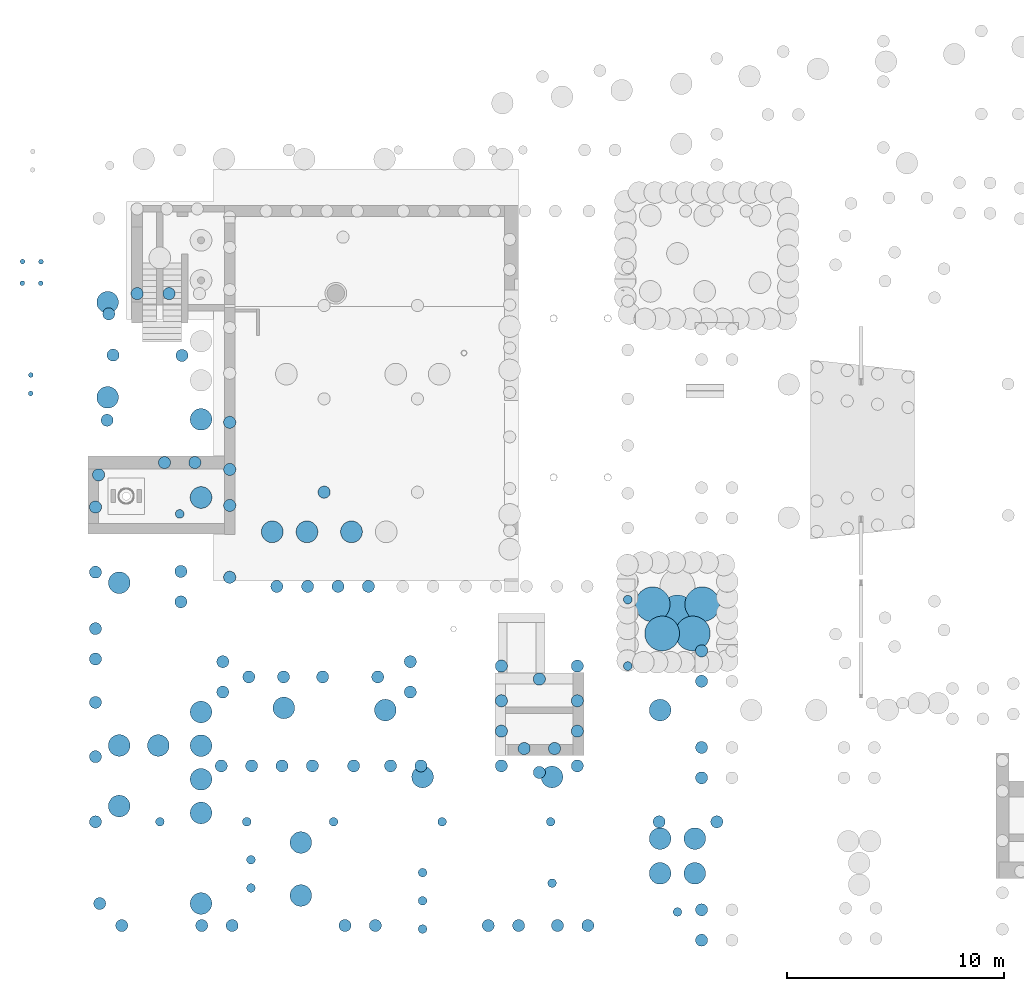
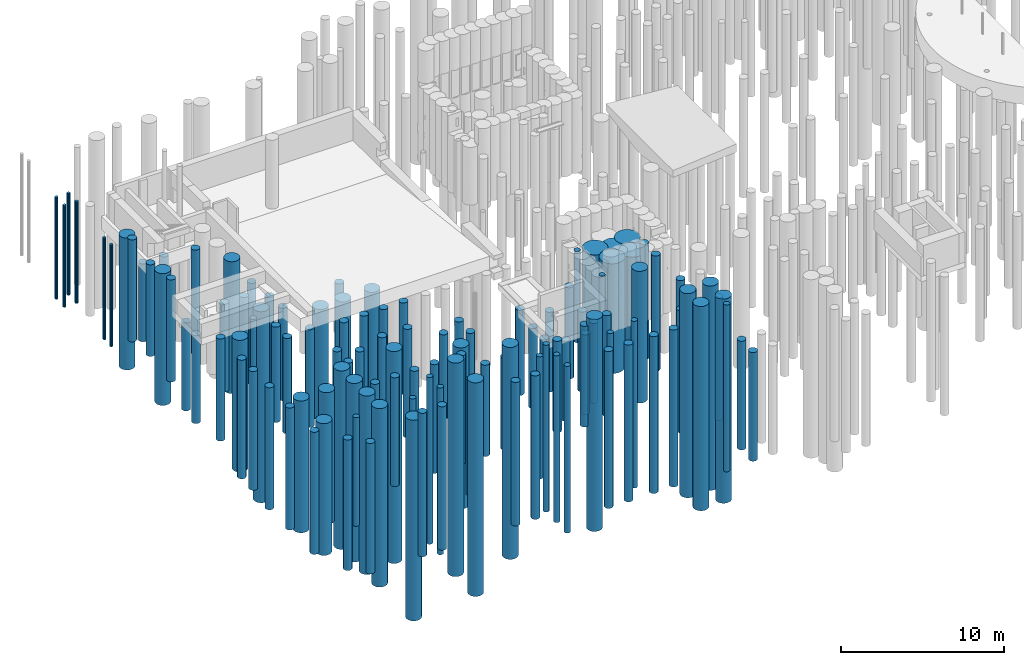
# One storey, part 1 of 104: 125 piles.
"""IFC2X3 building model written with IfcOpenShell, lengths in millimetres."""

from ifc_helpers import new_model, entity, si_unit, converted_unit, derived_unit, direction, frame, frame_2d, origin, place, context, subcontext, project, spatial, circle, extrude, source, transform, mapped, material, element, save


model = new_model("IFC2X3")

# Units and contexts
model_context = context("Model", 3, precision=0.01, world=origin(), true_north=direction((6.12303176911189e-17, 1.0)))
body_context = subcontext(model_context, "Body", "Model", "MODEL_VIEW")
ifc_project = project(units=[si_unit("LENGTHUNIT", "METRE", prefix="MILLI"), si_unit("AREAUNIT", "SQUARE_METRE", prefix="MILLI"), si_unit("VOLUMEUNIT", "CUBIC_METRE"), converted_unit("PLANEANGLEUNIT", "DEGREE", entity("IfcRatioMeasure", 0.0174532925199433), si_unit("PLANEANGLEUNIT", "RADIAN"), dimensions=[0, 0, 0, 0, 0, 0, 0]), si_unit("MASSUNIT", "GRAM", prefix="KILO"), derived_unit("MASSDENSITYUNIT", [(si_unit("MASSUNIT", "GRAM", prefix="KILO"), 1), (si_unit("LENGTHUNIT", "METRE"), -3)]), derived_unit("MOMENTOFINERTIAUNIT", [(si_unit("LENGTHUNIT", "METRE"), 4)]), si_unit("TIMEUNIT", "SECOND"), si_unit("FREQUENCYUNIT", "HERTZ"), si_unit("THERMODYNAMICTEMPERATUREUNIT", "DEGREE_CELSIUS"), derived_unit("THERMALTRANSMITTANCEUNIT", [(si_unit("MASSUNIT", "GRAM", prefix="KILO"), 1), (si_unit("THERMODYNAMICTEMPERATUREUNIT", "KELVIN"), -1), (si_unit("TIMEUNIT", "SECOND"), -3)]), derived_unit("VOLUMETRICFLOWRATEUNIT", [(si_unit("LENGTHUNIT", "METRE"), 3), (si_unit("TIMEUNIT", "SECOND"), -1)]), si_unit("ELECTRICCURRENTUNIT", "AMPERE"), si_unit("ELECTRICVOLTAGEUNIT", "VOLT"), si_unit("POWERUNIT", "WATT"), si_unit("FORCEUNIT", "NEWTON", prefix="KILO"), si_unit("ILLUMINANCEUNIT", "LUX"), si_unit("LUMINOUSFLUXUNIT", "LUMEN"), si_unit("LUMINOUSINTENSITYUNIT", "CANDELA"), derived_unit("USERDEFINED", [(si_unit("MASSUNIT", "GRAM", prefix="KILO"), -1), (si_unit("LENGTHUNIT", "METRE"), -2), (si_unit("TIMEUNIT", "SECOND"), 3), (si_unit("LUMINOUSFLUXUNIT", "LUMEN"), 1)]), derived_unit("LINEARVELOCITYUNIT", [(si_unit("LENGTHUNIT", "METRE"), 1), (si_unit("TIMEUNIT", "SECOND"), -1)]), si_unit("PRESSUREUNIT", "PASCAL"), derived_unit("USERDEFINED", [(si_unit("LENGTHUNIT", "METRE"), -2), (si_unit("MASSUNIT", "GRAM", prefix="KILO"), 1), (si_unit("TIMEUNIT", "SECOND"), -2)]), derived_unit("LINEARFORCEUNIT", [(si_unit("MASSUNIT", "GRAM", prefix="KILO"), 1), (si_unit("LENGTHUNIT", "METRE"), 1), (si_unit("TIMEUNIT", "SECOND"), -2), (si_unit("LENGTHUNIT", "METRE"), -1)]), derived_unit("PLANARFORCEUNIT", [(si_unit("MASSUNIT", "GRAM", prefix="KILO"), 1), (si_unit("LENGTHUNIT", "METRE"), 1), (si_unit("TIMEUNIT", "SECOND"), -2), (si_unit("LENGTHUNIT", "METRE"), -2)])], contexts=[model_context])

# Site, building, storey
site_placement = place(None, origin())
site = spatial("IfcSite", under=ifc_project, at=site_placement, Name="Theater aan de Parade", CompositionType="ELEMENT")
building_placement = place(site_placement, origin())
building = spatial("IfcBuilding", under=site, at=building_placement, Name="Theater aan de Parade", CompositionType="ELEMENT")
storey_placement = place(building_placement, frame((0.0, 0.0, -5520.0)))
storey = spatial("IfcBuildingStorey", under=building, at=storey_placement, Name="-2 kelder", CompositionType="ELEMENT", Elevation=-5520.0)

# Piles
ifc_material_1 = material(Name="<Unnamed>")
shared_shape_1 = source(origin(), body_context, "Body", "SweptSolid", [
    extrude(circle(Radius=280.0, at=frame_2d((-1.47690177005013e-29, -4.61316659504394e-13), x_axis=(1.0, 0.0))), frame((0.0, 0.0, -12360.0)), (0.0, 0.0, 1.0), 5819.99999999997),
])
for number, where in (
    (1, (12260.0, 39650.0, 5520.0)),
    (2, (13730.0, 39650.0, 5520.0)),
):
    element("IfcPile", number, at=place(storey_placement, frame(where)), inside=storey, material=ifc_material_1, Name="17_PBT_SFO_paal_rond:Ø560 (betonpaal)_bestaand", ObjectType="17_PBT_SFO_paal_rond:Ø560 (betonpaal)_bestaand", PredefinedType="NOTDEFINED", context=body_context, shape_type="MappedRepresentation", body=[
        mapped(shared_shape_1, transform((0.0, 0.0, 0.0), scale=1.0)),
    ])
shared_shape_2 = source(origin(), body_context, "Body", "SweptSolid", [
    extrude(circle(Radius=280.0, at=frame_2d((1.69197988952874e-14, -4.61316659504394e-13), x_axis=(1.0, 0.0))), frame((0.0, 0.0, -11360.0)), (0.0, 0.0, 1.0), 7639.99999999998),
])
for number, where in (
    (3, (10953.6296296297, 38715.0, 5520.0)),
    (4, (10878.4269662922, 33815.0, 5520.0)),
    (5, (10340.0, 26815.0, 5520.0)),
):
    element("IfcPile", number, at=place(storey_placement, frame(where)), inside=storey, material=ifc_material_1, Name="17_PBT_SFO_paal_rond:Ø560 (betonpaal)_bestaand", ObjectType="17_PBT_SFO_paal_rond:Ø560 (betonpaal)_bestaand", PredefinedType="NOTDEFINED", context=body_context, shape_type="MappedRepresentation", body=[
        mapped(shared_shape_2, transform((0.0, 0.0, 0.0), scale=1.0)),
    ])
shared_shape_3 = source(origin(), body_context, "Body", "SweptSolid", [
    extrude(circle(Radius=280.0, at=frame_2d((1.69197988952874e-14, -4.61316659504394e-13), x_axis=(1.0, 0.0))), frame((0.0, 0.0, -11360.0)), (0.0, 0.0, 1.0), 6859.99999999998),
])
pile_1_placement = place(storey_placement, frame((11150.6666666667, 36815.0, 5520.0)))
element("IfcPile", 6, at=pile_1_placement, inside=storey, material=ifc_material_1, Name="17_PBT_SFO_paal_rond:Ø560 (betonpaal)_bestaand", ObjectType="17_PBT_SFO_paal_rond:Ø560 (betonpaal)_bestaand", PredefinedType="NOTDEFINED", context=body_context, shape_type="MappedRepresentation", body=[
    mapped(shared_shape_3, transform((0.0, 0.0, 0.0), scale=1.0)),
])
shared_shape_4 = source(origin(), body_context, "Body", "SweptSolid", [
    extrude(circle(Radius=280.0, at=frame_2d((1.69197988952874e-14, -4.61316659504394e-13), x_axis=(1.0, 0.0))), frame((0.0, 0.0, -12360.0)), (0.0, 0.0, 1.0), 7859.99999999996),
])
pile_2_placement = place(storey_placement, frame((14325.0, 36800.0, 5520.0)))
element("IfcPile", 7, at=pile_2_placement, inside=storey, material=ifc_material_1, Name="17_PBT_SFO_paal_rond:Ø560 (betonpaal)_bestaand", ObjectType="17_PBT_SFO_paal_rond:Ø560 (betonpaal)_bestaand", PredefinedType="NOTDEFINED", context=body_context, shape_type="MappedRepresentation", body=[
    mapped(shared_shape_4, transform((0.0, 0.0, 0.0), scale=1.0)),
])
shared_shape_5 = source(origin(), body_context, "Body", "SweptSolid", [
    extrude(circle(Radius=280.0, at=frame_2d((1.69197988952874e-14, -4.61316659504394e-13), x_axis=(1.0, 0.0))), frame((0.0, 0.0, -11860.0)), (0.0, 0.0, 1.0), 6579.99999999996),
])
for number, where in (
    (8, (10482.4319267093, 31297.6029626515, 5520.0)),
    (9, (14920.0, 31865.0, 5520.0)),
    (10, (13520.0, 31865.0, 5520.0)),
    (11, (10340.0, 29815.0, 5520.0)),
):
    element("IfcPile", number, at=place(storey_placement, frame(where)), inside=storey, material=ifc_material_1, Name="17_PBT_SFO_paal_rond:Ø560 (betonpaal)_bestaand", ObjectType="17_PBT_SFO_paal_rond:Ø560 (betonpaal)_bestaand", PredefinedType="NOTDEFINED", context=body_context, shape_type="MappedRepresentation", body=[
        mapped(shared_shape_5, transform((0.0, 0.0, 0.0), scale=1.0)),
    ])
shared_shape_6 = source(origin(), body_context, "Body", "SweptSolid", [
    extrude(circle(Radius=280.0, at=frame_2d((1.69197988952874e-14, -4.61316659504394e-13), x_axis=(1.0, 0.0))), frame((0.0, 0.0, -12360.0)), (0.0, 0.0, 1.0), 6462.99999999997),
])
pile_3_placement = place(storey_placement, frame((16525.0, 33720.0, 5520.0)))
element("IfcPile", 12, at=pile_3_placement, inside=storey, material=ifc_material_1, Name="17_PBT_SFO_paal_rond:Ø560 (betonpaal)_bestaand", ObjectType="17_PBT_SFO_paal_rond:Ø560 (betonpaal)_bestaand", PredefinedType="NOTDEFINED", context=body_context, shape_type="MappedRepresentation", body=[
    mapped(shared_shape_6, transform((0.0, 0.0, 0.0), scale=1.0)),
])
shared_shape_7 = source(origin(), body_context, "Body", "SweptSolid", [
    extrude(circle(Radius=280.0, at=frame_2d((1.69197988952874e-14, -4.61316659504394e-13), x_axis=(1.0, 0.0))), frame((0.0, 0.0, -12360.0)), (0.0, 0.0, 1.0), 6723.99999999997),
])
pile_4_placement = place(storey_placement, frame((16525.0, 31550.0, 5520.0)))
element("IfcPile", 13, at=pile_4_placement, inside=storey, material=ifc_material_1, Name="17_PBT_SFO_paal_rond:Ø560 (betonpaal)_bestaand", ObjectType="17_PBT_SFO_paal_rond:Ø560 (betonpaal)_bestaand", PredefinedType="NOTDEFINED", context=body_context, shape_type="MappedRepresentation", body=[
    mapped(shared_shape_7, transform((0.0, 0.0, 0.0), scale=1.0)),
])
shared_shape_8 = source(origin(), body_context, "Body", "SweptSolid", [
    extrude(circle(Radius=280.0, at=frame_2d((1.69197988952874e-14, -4.61316659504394e-13), x_axis=(1.0, 0.0))), frame((0.0, 0.0, -12360.0)), (0.0, 0.0, 1.0), 6922.99999999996),
])
pile_5_placement = place(storey_placement, frame((16525.0, 29890.0, 5520.0)))
element("IfcPile", 14, at=pile_5_placement, inside=storey, material=ifc_material_1, Name="17_PBT_SFO_paal_rond:Ø560 (betonpaal)_bestaand", ObjectType="17_PBT_SFO_paal_rond:Ø560 (betonpaal)_bestaand", PredefinedType="NOTDEFINED", context=body_context, shape_type="MappedRepresentation", body=[
    mapped(shared_shape_8, transform((0.0, 0.0, 0.0), scale=1.0)),
])
shared_shape_9 = source(origin(), body_context, "Body", "SweptSolid", [
    extrude(circle(Radius=280.0, at=frame_2d((1.69197988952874e-14, -4.61316659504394e-13), x_axis=(1.0, 0.0))), frame((0.0, 0.0, -12360.0)), (0.0, 0.0, 1.0), 7320.99999999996),
])
pile_6_placement = place(storey_placement, frame((16525.0, 26580.0, 5520.0)))
element("IfcPile", 15, at=pile_6_placement, inside=storey, material=ifc_material_1, Name="17_PBT_SFO_paal_rond:Ø560 (betonpaal)_bestaand", ObjectType="17_PBT_SFO_paal_rond:Ø560 (betonpaal)_bestaand", PredefinedType="NOTDEFINED", context=body_context, shape_type="MappedRepresentation", body=[
    mapped(shared_shape_9, transform((0.0, 0.0, 0.0), scale=1.0)),
])
shared_shape_10 = source(origin(), body_context, "Body", "SweptSolid", [
    extrude(circle(Radius=200.0, at=frame_2d((1.69197988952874e-14, -3.02923644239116e-13), x_axis=(1.0, 0.0))), frame((0.0, 0.0, -12360.0)), (0.0, 0.0, 1.0), 7079.99999999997),
])
pile_7_placement = place(storey_placement, frame((14220.0, 29500.0, 5520.0)))
element("IfcPile", 16, at=pile_7_placement, inside=storey, material=ifc_material_1, Name="17_PBT_SFO_paal_rond:Ø400 (betonpaal)_bestaand", ObjectType="17_PBT_SFO_paal_rond:Ø400 (betonpaal)_bestaand", PredefinedType="NOTDEFINED", context=body_context, shape_type="MappedRepresentation", body=[
    mapped(shared_shape_10, transform((0.0, 0.0, 0.0), scale=1.0)),
])
shared_shape_11 = source(origin(), body_context, "Body", "SweptSolid", [
    extrude(circle(Radius=280.0, at=frame_2d((1.69197988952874e-14, -4.61316659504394e-13), x_axis=(1.0, 0.0))), frame((0.0, 0.0, -11360.0)), (0.0, 0.0, 1.0), 7139.99999999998),
])
for number, where in (
    (17, (14275.0, 26850.0, 5520.0)),
    (18, (14275.0, 25450.0, 5520.0)),
):
    element("IfcPile", number, at=place(storey_placement, frame(where)), inside=storey, material=ifc_material_1, Name="17_PBT_SFO_paal_rond:Ø560 (betonpaal)_bestaand", ObjectType="17_PBT_SFO_paal_rond:Ø560 (betonpaal)_bestaand", PredefinedType="NOTDEFINED", context=body_context, shape_type="MappedRepresentation", body=[
        mapped(shared_shape_11, transform((0.0, 0.0, 0.0), scale=1.0)),
    ])
shared_shape_12 = source(origin(), body_context, "Body", "SweptSolid", [
    extrude(circle(Radius=280.0, at=frame_2d((1.69197988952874e-14, -4.61316659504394e-13), x_axis=(1.0, 0.0))), frame((0.0, 0.0, -12610.0)), (0.0, 0.0, 1.0), 8889.99999999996),
])
for number, where in (
    (19, (10340.0, 24215.0, 5520.0)),
    (20, (10340.0, 22815.0, 5520.0)),
):
    element("IfcPile", number, at=place(storey_placement, frame(where)), inside=storey, material=ifc_material_1, Name="17_PBT_SFO_paal_rond:Ø560 (betonpaal)_bestaand", ObjectType="17_PBT_SFO_paal_rond:Ø560 (betonpaal)_bestaand", PredefinedType="NOTDEFINED", context=body_context, shape_type="MappedRepresentation", body=[
        mapped(shared_shape_12, transform((0.0, 0.0, 0.0), scale=1.0)),
    ])
shared_shape_13 = source(origin(), body_context, "Body", "SweptSolid", [
    extrude(circle(Radius=280.0, at=frame_2d((1.69197988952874e-14, -4.61316659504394e-13), x_axis=(1.0, 0.0))), frame((0.0, 0.0, -12860.0)), (0.0, 0.0, 1.0), 9139.99999999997),
])
for number, where in (
    (21, (10340.0, 20815.0, 5520.0)),
    (22, (10340.0, 18315.0, 5520.0)),
    (23, (10340.0, 15315.0, 5520.0)),
    (24, (36310.0, 15315.0, 5520.0)),
    (25, (38965.0, 15315.0, 5520.0)),
):
    element("IfcPile", number, at=place(storey_placement, frame(where)), inside=storey, material=ifc_material_1, Name="17_PBT_SFO_paal_rond:Ø560 (betonpaal)_bestaand", ObjectType="17_PBT_SFO_paal_rond:Ø560 (betonpaal)_bestaand", PredefinedType="NOTDEFINED", context=body_context, shape_type="MappedRepresentation", body=[
        mapped(shared_shape_13, transform((0.0, 0.0, 0.0), scale=1.0)),
    ])
shared_shape_14 = source(origin(), body_context, "Body", "SweptSolid", [
    extrude(circle(Radius=280.0, at=frame_2d((1.69197988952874e-14, -4.61316659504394e-13), x_axis=(1.0, 0.0))), frame((0.0, 0.0, -11860.0)), (0.0, 0.0, 1.0), 9779.99999999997),
])
for number, where in (
    (26, (10535.0, 11550.0, 5520.0)),
    (27, (11550.0, 10535.0, 5520.0)),
):
    element("IfcPile", number, at=place(storey_placement, frame(where)), inside=storey, material=ifc_material_1, Name="17_PBT_SFO_paal_rond:Ø560 (betonpaal)_bestaand", ObjectType="17_PBT_SFO_paal_rond:Ø560 (betonpaal)_bestaand", PredefinedType="NOTDEFINED", context=body_context, shape_type="MappedRepresentation", body=[
        mapped(shared_shape_14, transform((0.0, 0.0, 0.0), scale=1.0)),
    ])
shared_shape_15 = source(origin(), body_context, "Body", "SweptSolid", [
    extrude(circle(Radius=200.0, at=frame_2d((1.69197988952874e-14, -3.02923644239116e-13), x_axis=(1.0, 0.0))), frame((0.0, 0.0, -11860.0)), (0.0, 0.0, 1.0), 8139.99999999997),
])
for number, where in (
    (28, (17310.0, 15315.0, 5520.0)),
    (29, (13310.0, 15315.0, 5520.0)),
):
    element("IfcPile", number, at=place(storey_placement, frame(where)), inside=storey, material=ifc_material_1, Name="17_PBT_SFO_paal_rond:Ø400 (betonpaal)_bestaand", ObjectType="17_PBT_SFO_paal_rond:Ø400 (betonpaal)_bestaand", PredefinedType="NOTDEFINED", context=body_context, shape_type="MappedRepresentation", body=[
        mapped(shared_shape_15, transform((0.0, 0.0, 0.0), scale=1.0)),
    ])
shared_shape_16 = source(origin(), body_context, "Body", "SweptSolid", [
    extrude(circle(Radius=280.0, at=frame_2d((1.69197988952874e-14, -4.61316659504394e-13), x_axis=(1.0, 0.0))), frame((0.0, 0.0, -11860.0)), (0.0, 0.0, 1.0), 10745.0),
])
for number, where in (
    (30, (15235.0, 10535.0, 5520.0)),
    (31, (16635.0, 10535.0, 5520.0)),
    (32, (21835.0, 10535.0, 5520.0)),
    (33, (23235.0, 10535.0, 5520.0)),
):
    element("IfcPile", number, at=place(storey_placement, frame(where)), inside=storey, material=ifc_material_1, Name="17_PBT_SFO_paal_rond:Ø560 (betonpaal)_bestaand", ObjectType="17_PBT_SFO_paal_rond:Ø560 (betonpaal)_bestaand", PredefinedType="NOTDEFINED", context=body_context, shape_type="MappedRepresentation", body=[
        mapped(shared_shape_16, transform((0.0, 0.0, 0.0), scale=1.0)),
    ])
shared_shape_17 = source(origin(), body_context, "Body", "SweptSolid", [
    extrude(circle(Radius=200.0, at=frame_2d((1.69197988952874e-14, -3.02923644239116e-13), x_axis=(1.0, 0.0))), frame((0.0, 0.0, -12360.0)), (0.0, 0.0, 1.0), 8639.99999999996),
])
pile_8_placement = place(storey_placement, frame((21310.0, 15315.0, 5520.0)))
element("IfcPile", 34, at=pile_8_placement, inside=storey, material=ifc_material_1, Name="17_PBT_SFO_paal_rond:Ø400 (betonpaal)_bestaand", ObjectType="17_PBT_SFO_paal_rond:Ø400 (betonpaal)_bestaand", PredefinedType="NOTDEFINED", context=body_context, shape_type="MappedRepresentation", body=[
    mapped(shared_shape_17, transform((0.0, 0.0, 0.0), scale=1.0)),
])
shared_shape_18 = source(origin(), body_context, "Body", "SweptSolid", [
    extrude(circle(Radius=200.0, at=frame_2d((1.69197988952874e-14, -3.02923644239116e-13), x_axis=(1.0, 0.0))), frame((0.0, 0.0, -12860.0)), (0.0, 0.0, 1.0), 9139.99999999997),
])
for number, where in (
    (35, (26310.0, 15315.0, 5520.0)),
    (36, (31310.0, 15315.0, 5520.0)),
):
    element("IfcPile", number, at=place(storey_placement, frame(where)), inside=storey, material=ifc_material_1, Name="17_PBT_SFO_paal_rond:Ø400 (betonpaal)_bestaand", ObjectType="17_PBT_SFO_paal_rond:Ø400 (betonpaal)_bestaand", PredefinedType="NOTDEFINED", context=body_context, shape_type="MappedRepresentation", body=[
        mapped(shared_shape_18, transform((0.0, 0.0, 0.0), scale=1.0)),
    ])
shared_shape_19 = source(origin(), body_context, "Body", "SweptSolid", [
    extrude(circle(Radius=280.0, at=frame_2d((1.69197988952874e-14, -4.61316659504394e-13), x_axis=(1.0, 0.0))), frame((0.0, 0.0, -12860.0)), (0.0, 0.0, 1.0), 11745.0),
])
for number, where in (
    (37, (28435.0, 10535.0, 5520.0)),
    (38, (29835.0, 10535.0, 5520.0)),
    (39, (31625.0, 10535.0, 5520.0)),
    (40, (33025.0, 10535.0, 5520.0)),
):
    element("IfcPile", number, at=place(storey_placement, frame(where)), inside=storey, material=ifc_material_1, Name="17_PBT_SFO_paal_rond:Ø560 (betonpaal)_bestaand", ObjectType="17_PBT_SFO_paal_rond:Ø560 (betonpaal)_bestaand", PredefinedType="NOTDEFINED", context=body_context, shape_type="MappedRepresentation", body=[
        mapped(shared_shape_19, transform((0.0, 0.0, 0.0), scale=1.0)),
    ])
shared_shape_20 = source(origin(), body_context, "Body", "SweptSolid", [
    extrude(circle(Radius=280.0, at=frame_2d((1.69197988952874e-14, -4.61316659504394e-13), x_axis=(1.0, 0.0))), frame((0.0, 0.0, -11860.0)), (0.0, 0.0, 1.0), 8139.99999999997),
])
for number, where in (
    (41, (16135.0, 17890.0, 5520.0)),
    (42, (17535.0, 17890.0, 5520.0)),
    (43, (18935.0, 17890.0, 5520.0)),
    (44, (20335.0, 17890.0, 5520.0)),
    (45, (22235.0, 17890.0, 5520.0)),
    (46, (19005.0, 21990.0, 5520.0)),
    (47, (20805.0, 21990.0, 5520.0)),
):
    element("IfcPile", number, at=place(storey_placement, frame(where)), inside=storey, material=ifc_material_1, Name="17_PBT_SFO_paal_rond:Ø560 (betonpaal)_bestaand", ObjectType="17_PBT_SFO_paal_rond:Ø560 (betonpaal)_bestaand", PredefinedType="NOTDEFINED", context=body_context, shape_type="MappedRepresentation", body=[
        mapped(shared_shape_20, transform((0.0, 0.0, 0.0), scale=1.0)),
    ])
shared_shape_21 = source(origin(), body_context, "Body", "SweptSolid", [
    extrude(circle(Radius=280.0, at=frame_2d((1.69197988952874e-14, -4.61316659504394e-13), x_axis=(1.0, 0.0))), frame((0.0, 0.0, -11860.0)), (0.0, 0.0, 1.0), 6839.99999999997),
])
for number, where in (
    (48, (23935.0, 17890.0, 5520.0)),
    (49, (25335.0, 17890.0, 5520.0)),
    (50, (29040.0, 17890.0, 5520.0)),
    (51, (32540.0, 22490.0, 5520.0)),
    (52, (22915.0, 26160.0, 5520.0)),
):
    element("IfcPile", number, at=place(storey_placement, frame(where)), inside=storey, material=ifc_material_1, Name="17_PBT_SFO_paal_rond:Ø560 (betonpaal)_bestaand", ObjectType="17_PBT_SFO_paal_rond:Ø560 (betonpaal)_bestaand", PredefinedType="NOTDEFINED", context=body_context, shape_type="MappedRepresentation", body=[
        mapped(shared_shape_21, transform((0.0, 0.0, 0.0), scale=1.0)),
    ])
shared_shape_22 = source(origin(), body_context, "Body", "SweptSolid", [
    extrude(circle(Radius=280.0, at=frame_2d((1.69197988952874e-14, -4.61316659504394e-13), x_axis=(1.0, 0.0))), frame((0.0, 0.0, -11860.0)), (0.0, 0.0, 1.0), 7539.99999999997),
])
for number, where in (
    (53, (30790.0, 17590.0, 5520.0)),
    (54, (32540.0, 17890.0, 5520.0)),
):
    element("IfcPile", number, at=place(storey_placement, frame(where)), inside=storey, material=ifc_material_1, Name="17_PBT_SFO_paal_rond:Ø560 (betonpaal)_bestaand", ObjectType="17_PBT_SFO_paal_rond:Ø560 (betonpaal)_bestaand", PredefinedType="NOTDEFINED", context=body_context, shape_type="MappedRepresentation", body=[
        mapped(shared_shape_22, transform((0.0, 0.0, 0.0), scale=1.0)),
    ])
shared_shape_23 = source(origin(), body_context, "Body", "SweptSolid", [
    extrude(circle(Radius=280.0, at=frame_2d((1.69197988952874e-14, -4.61316659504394e-13), x_axis=(1.0, 0.0))), frame((0.0, 0.0, -11860.0)), (0.0, 0.0, 1.0), 5979.99999999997),
])
for number, where in (
    (55, (31490.0, 18690.0, 5520.0)),
    (56, (30090.0, 18690.0, 5520.0)),
    (57, (29040.0, 19490.0, 5520.0)),
    (58, (32540.0, 19490.0, 5520.0)),
    (59, (29040.0, 20890.0, 5520.0)),
    (60, (32540.0, 20890.0, 5520.0)),
    (61, (30790.0, 21890.0, 5520.0)),
):
    element("IfcPile", number, at=place(storey_placement, frame(where)), inside=storey, material=ifc_material_1, Name="17_PBT_SFO_paal_rond:Ø560 (betonpaal)_bestaand", ObjectType="17_PBT_SFO_paal_rond:Ø560 (betonpaal)_bestaand", PredefinedType="NOTDEFINED", context=body_context, shape_type="MappedRepresentation", body=[
        mapped(shared_shape_23, transform((0.0, 0.0, 0.0), scale=1.0)),
    ])
shared_shape_24 = source(origin(), body_context, "Body", "SweptSolid", [
    extrude(circle(Radius=280.0, at=frame_2d((1.69197988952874e-14, -4.61316659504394e-13), x_axis=(1.0, 0.0))), frame((0.0, 0.0, -11860.0)), (0.0, 0.0, 1.0), 6379.99999999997),
])
pile_9_placement = place(storey_placement, frame((29040.0, 22490.0, 5520.0)))
element("IfcPile", 62, at=pile_9_placement, inside=storey, material=ifc_material_1, Name="17_PBT_SFO_paal_rond:Ø560 (betonpaal)_bestaand", ObjectType="17_PBT_SFO_paal_rond:Ø560 (betonpaal)_bestaand", PredefinedType="NOTDEFINED", context=body_context, shape_type="MappedRepresentation", body=[
    mapped(shared_shape_24, transform((0.0, 0.0, 0.0), scale=1.0)),
])
shared_shape_25 = source(origin(), body_context, "Body", "SweptSolid", [
    extrude(circle(Radius=280.0, at=frame_2d((1.69197988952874e-14, -4.61316659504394e-13), x_axis=(1.0, 0.0))), frame((0.0, 0.0, -11860.0)), (0.0, 0.0, 1.0), 7639.99999999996),
])
for number, where in (
    (63, (16205.0, 21290.0, 5520.0)),
    (64, (16205.0, 22690.0, 5520.0)),
    (65, (17405.0, 21990.0, 5520.0)),
):
    element("IfcPile", number, at=place(storey_placement, frame(where)), inside=storey, material=ifc_material_1, Name="17_PBT_SFO_paal_rond:Ø560 (betonpaal)_bestaand", ObjectType="17_PBT_SFO_paal_rond:Ø560 (betonpaal)_bestaand", PredefinedType="NOTDEFINED", context=body_context, shape_type="MappedRepresentation", body=[
        mapped(shared_shape_25, transform((0.0, 0.0, 0.0), scale=1.0)),
    ])
shared_shape_26 = source(origin(), body_context, "Body", "SweptSolid", [
    extrude(circle(Radius=280.0, at=frame_2d((1.69197988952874e-14, -4.61316659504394e-13), x_axis=(1.0, 0.0))), frame((0.0, 0.0, -11360.0)), (0.0, 0.0, 1.0), 6339.99999999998),
])
for number, where in (
    (66, (23345.0, 21990.0, 5520.0)),
    (67, (24845.0, 21290.0, 5520.0)),
    (68, (24845.0, 22690.0, 5520.0)),
):
    element("IfcPile", number, at=place(storey_placement, frame(where)), inside=storey, material=ifc_material_1, Name="17_PBT_SFO_paal_rond:Ø560 (betonpaal)_bestaand", ObjectType="17_PBT_SFO_paal_rond:Ø560 (betonpaal)_bestaand", PredefinedType="NOTDEFINED", context=body_context, shape_type="MappedRepresentation", body=[
        mapped(shared_shape_26, transform((0.0, 0.0, 0.0), scale=1.0)),
    ])
shared_shape_27 = source(origin(), body_context, "Body", "SweptSolid", [
    extrude(circle(Radius=280.0, at=frame_2d((1.69197988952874e-14, -4.61316659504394e-13), x_axis=(1.0, 0.0))), frame((0.0, 0.0, -12360.0)), (0.0, 0.0, 1.0), 7339.99999999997),
])
for number, where in (
    (69, (18695.0, 26160.0, 5520.0)),
    (70, (20115.0, 26160.0, 5520.0)),
    (71, (21515.0, 26160.0, 5520.0)),
):
    element("IfcPile", number, at=place(storey_placement, frame(where)), inside=storey, material=ifc_material_1, Name="17_PBT_SFO_paal_rond:Ø560 (betonpaal)_bestaand", ObjectType="17_PBT_SFO_paal_rond:Ø560 (betonpaal)_bestaand", PredefinedType="NOTDEFINED", context=body_context, shape_type="MappedRepresentation", body=[
        mapped(shared_shape_27, transform((0.0, 0.0, 0.0), scale=1.0)),
    ])
shared_shape_28 = source(origin(), body_context, "Body", "SweptSolid", [
    extrude(circle(Radius=200.0, at=frame_2d((1.69197988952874e-14, -3.02923644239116e-13), x_axis=(1.0, 0.0))), frame((0.0, 0.0, -11860.0)), (0.0, 0.0, 1.0), 6839.99999999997),
])
for number, where in (
    (72, (34865.0, 25550.0, 5520.0)),
    (73, (34865.0, 22490.0, 5520.0)),
):
    element("IfcPile", number, at=place(storey_placement, frame(where)), inside=storey, material=ifc_material_1, Name="17_PBT_SFO_paal_rond:Ø400 (betonpaal)_bestaand", ObjectType="17_PBT_SFO_paal_rond:Ø400 (betonpaal)_bestaand", PredefinedType="NOTDEFINED", context=body_context, shape_type="MappedRepresentation", body=[
        mapped(shared_shape_28, transform((0.0, 0.0, 0.0), scale=1.0)),
    ])
shared_shape_29 = source(origin(), body_context, "Body", "SweptSolid", [
    extrude(circle(Radius=280.0, at=frame_2d((1.69197988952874e-14, -4.61316659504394e-13), x_axis=(1.0, 0.0))), frame((0.0, 0.0, -12360.0)), (0.0, 0.0, 1.0), 6849.99999999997),
])
pile_10_placement = place(storey_placement, frame((20875.0, 30500.0, 5520.0)))
element("IfcPile", 74, at=pile_10_placement, inside=storey, material=ifc_material_1, Name="17_PBT_SFO_paal_rond:Ø560 (betonpaal)_bestaand", ObjectType="17_PBT_SFO_paal_rond:Ø560 (betonpaal)_bestaand", PredefinedType="NOTDEFINED", context=body_context, shape_type="MappedRepresentation", body=[
    mapped(shared_shape_29, transform((0.0, 0.0, 0.0), scale=1.0)),
])
shared_shape_30 = source(origin(), body_context, "Body", "SweptSolid", [
    extrude(circle(Radius=280.0, at=frame_2d((1.69197988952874e-14, -4.61316659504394e-13), x_axis=(1.0, 0.0))), frame((0.0, 0.0, -12860.0)), (0.0, 0.0, 1.0), 8639.99999999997),
])
for number, where in (
    (75, (38265.0, 23190.0, 5520.0)),
    (76, (38265.0, 21790.0, 5520.0)),
    (77, (38265.0, 18740.0, 5520.0)),
    (78, (38265.0, 17340.0, 5520.0)),
):
    element("IfcPile", number, at=place(storey_placement, frame(where)), inside=storey, material=ifc_material_1, Name="17_PBT_SFO_paal_rond:Ø560 (betonpaal)_bestaand", ObjectType="17_PBT_SFO_paal_rond:Ø560 (betonpaal)_bestaand", PredefinedType="NOTDEFINED", context=body_context, shape_type="MappedRepresentation", body=[
        mapped(shared_shape_30, transform((0.0, 0.0, 0.0), scale=1.0)),
    ])
shared_shape_31 = source(origin(), body_context, "Body", "SweptSolid", [
    extrude(circle(Radius=280.0, at=frame_2d((1.69197988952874e-14, -4.61316659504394e-13), x_axis=(1.0, 0.0))), frame((0.0, 0.0, -12360.0)), (0.0, 0.0, 1.0), 8139.99999999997),
])
for number, where in (
    (79, (38265.0, 11260.0, 5520.0)),
    (80, (38265.0, 9860.0, 5520.0)),
):
    element("IfcPile", number, at=place(storey_placement, frame(where)), inside=storey, material=ifc_material_1, Name="17_PBT_SFO_paal_rond:Ø560 (betonpaal)_bestaand", ObjectType="17_PBT_SFO_paal_rond:Ø560 (betonpaal)_bestaand", PredefinedType="NOTDEFINED", context=body_context, shape_type="MappedRepresentation", body=[
        mapped(shared_shape_31, transform((0.0, 0.0, 0.0), scale=1.0)),
    ])
ifc_material_2 = material(Name="00_PBT_MAT_grout")
shared_shape_32 = source(origin(), body_context, "Body", "SweptSolid", [
    extrude(circle(Radius=500.0, at=frame_2d((3.3839597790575e-14, -7.7318529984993e-13), x_axis=(1.0, 0.0))), frame((0.0, 0.0, -13610.0)), (0.0, 0.0, 1.0), 9869.99999999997),
])
for number, where in (
    (81, (36353.8581300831, 20461.367453, 5520.0)),
    (82, (15203.8570025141, 33855.1469046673, 5520.0)),
    (83, (11434.1125537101, 26330.0, 5520.0)),
    (84, (11434.1125537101, 18830.7915407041, 5520.0)),
    (85, (13234.1125537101, 18830.7915407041, 5520.0)),
    (86, (11434.1125537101, 16040.0, 5520.0)),
    (87, (10900.0, 34870.0, 5520.0)),
):
    element("IfcPile", number, at=place(storey_placement, frame(where)), inside=storey, material=ifc_material_2, Name="17_PBT_SFO_paal_rond:Ø1000 (jetgroutpaal) binnen kelder", ObjectType="17_PBT_SFO_paal_rond:Ø1000 (jetgroutpaal) binnen kelder", PredefinedType="NOTDEFINED", context=body_context, shape_type="MappedRepresentation", body=[
        mapped(shared_shape_32, transform((0.0, 0.0, 0.0), scale=1.0)),
    ])
shared_shape_33 = source(origin(), body_context, "Body", "SweptSolid", [
    extrude(circle(Radius=500.0, at=frame_2d((3.3839597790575e-14, -7.7318529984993e-13), x_axis=(1.0, 0.0))), frame((0.0, 0.0, -17110.0)), (0.0, 0.0, 1.0), 13370.0),
])
for number, where in (
    (88, (15203.8570025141, 20372.6264470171, 5520.0)),
    (89, (15203.8570025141, 15722.6264470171, 5520.0)),
    (90, (15203.8570025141, 18822.6264470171, 5520.0)),
    (91, (15203.8570025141, 17272.6264470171, 5520.0)),
):
    element("IfcPile", number, at=place(storey_placement, frame(where)), inside=storey, material=ifc_material_2, Name="17_PBT_SFO_paal_rond:Ø1000 (jetgroutpaal) binnen kelder", ObjectType="17_PBT_SFO_paal_rond:Ø1000 (jetgroutpaal) binnen kelder", PredefinedType="NOTDEFINED", context=body_context, shape_type="MappedRepresentation", body=[
        mapped(shared_shape_33, transform((0.0, 0.0, 0.0), scale=1.0)),
    ])
shared_shape_34 = source(origin(), body_context, "Body", "SweptSolid", [
    extrude(circle(Radius=500.0, at=frame_2d((3.3839597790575e-14, -7.7318529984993e-13), x_axis=(1.0, 0.0))), frame((0.0, 0.0, -17110.0)), (0.0, 0.0, 1.0), 15295.0),
])
for number, where in (
    (92, (37953.8581300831, 14540.3177017, 5520.0)),
    (93, (37953.8581300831, 12940.3177017, 5520.0)),
    (94, (36353.8581300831, 12940.3177017, 5520.0)),
    (95, (36353.8581300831, 14540.3177017, 5520.0)),
):
    element("IfcPile", number, at=place(storey_placement, frame(where)), inside=storey, material=ifc_material_2, Name="17_PBT_SFO_paal_rond:Ø1000 (jetgroutpaal) buiten kelder", ObjectType="17_PBT_SFO_paal_rond:Ø1000 (jetgroutpaal) buiten kelder", PredefinedType="NOTDEFINED", context=body_context, shape_type="MappedRepresentation", body=[
        mapped(shared_shape_34, transform((0.0, 0.0, 0.0), scale=1.0)),
    ])
shared_shape_35 = source(origin(), body_context, "Body", "SweptSolid", [
    extrude(circle(Radius=200.0, at=frame_2d((1.69197988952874e-14, -3.02923644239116e-13), x_axis=(1.0, 0.0))), frame((0.0, 0.0, -13610.0)), (0.0, 0.0, 1.0), 12495.0),
])
for number, where in (
    (96, (31375.0, 12490.0, 5520.0)),
    (97, (25410.0, 10375.0, 5520.0)),
    (98, (17503.8570025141, 12265.0, 5520.0)),
    (99, (17503.8570025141, 13565.0, 5520.0)),
    (100, (25410.0, 11675.0, 5520.0)),
    (101, (25410.0, 12975.0, 5520.0)),
    (102, (37153.8581300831, 11160.0, 5520.0)),
):
    element("IfcPile", number, at=place(storey_placement, frame(where)), inside=storey, material=ifc_material_1, Name="17_PBT_SFO_paal_rond:Ø400 (Avegaarpaal)", ObjectType="17_PBT_SFO_paal_rond:Ø400 (Avegaarpaal)", PredefinedType="NOTDEFINED", context=body_context, shape_type="MappedRepresentation", body=[
        mapped(shared_shape_35, transform((0.0, 0.0, 0.0), scale=1.0)),
    ])
shared_shape_36 = source(origin(), body_context, "Body", "SweptSolid", [
    extrude(circle(Radius=500.0, at=frame_2d((3.3839597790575e-14, -7.7318529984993e-13), x_axis=(1.0, 0.0))), frame((0.0, 0.0, -17110.0)), (0.0, 0.0, 1.0), 15995.0),
])
for number, where in (
    (103, (19803.857002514, 11919.3270746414, 5520.0)),
    (104, (19803.857002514, 14360.0, 5520.0)),
):
    element("IfcPile", number, at=place(storey_placement, frame(where)), inside=storey, material=ifc_material_2, Name="17_PBT_SFO_paal_rond:Ø1000 (jetgroutpaal) buiten kelder", ObjectType="17_PBT_SFO_paal_rond:Ø1000 (jetgroutpaal) buiten kelder", PredefinedType="NOTDEFINED", context=body_context, shape_type="MappedRepresentation", body=[
        mapped(shared_shape_36, transform((0.0, 0.0, 0.0), scale=1.0)),
    ])
shared_shape_37 = source(origin(), body_context, "Body", "SweptSolid", [
    extrude(circle(Radius=500.0, at=frame_2d((3.3839597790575e-14, -7.7318529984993e-13), x_axis=(1.0, 0.0))), frame((0.0, 0.0, -19610.0)), (0.0, 0.0, 1.0), 15870.0),
])
for number, where in (
    (105, (25410.0, 17380.0, 5520.0)),
    (106, (31375.0, 17380.0, 5520.0)),
    (107, (19018.1946081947, 20561.3674530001, 5520.0)),
):
    element("IfcPile", number, at=place(storey_placement, frame(where)), inside=storey, material=ifc_material_2, Name="17_PBT_SFO_paal_rond:Ø1000 (jetgroutpaal) binnen kelder", ObjectType="17_PBT_SFO_paal_rond:Ø1000 (jetgroutpaal) binnen kelder", PredefinedType="NOTDEFINED", context=body_context, shape_type="MappedRepresentation", body=[
        mapped(shared_shape_37, transform((0.0, 0.0, 0.0), scale=1.0)),
    ])
shared_shape_38 = source(origin(), body_context, "Body", "SweptSolid", [
    extrude(circle(Radius=500.0, at=frame_2d((3.3839597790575e-14, -7.7318529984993e-13), x_axis=(1.0, 0.0))), frame((0.0, 0.0, -17110.0)), (0.0, 0.0, 1.0), 12070.0),
])
pile_11_placement = place(storey_placement, frame((23693.5616875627, 20461.3674530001, 5520.0)))
element("IfcPile", 108, at=pile_11_placement, inside=storey, material=ifc_material_2, Name="17_PBT_SFO_paal_rond:Ø1000 (jetgroutpaal) binnen kelder", ObjectType="17_PBT_SFO_paal_rond:Ø1000 (jetgroutpaal) binnen kelder", PredefinedType="NOTDEFINED", context=body_context, shape_type="MappedRepresentation", body=[
    mapped(shared_shape_38, transform((0.0, 0.0, 0.0), scale=1.0)),
])
shared_shape_39 = source(origin(), body_context, "Body", "SweptSolid", [
    extrude(circle(Radius=800.0, at=frame_2d((6.76791955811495e-14, -1.34705296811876e-12), x_axis=(1.0, 0.0))), frame((0.0, 0.0, -13360.0)), (0.0, 0.0, 1.0), 8219.99999999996),
])
for number, where in (
    (109, (37153.8581300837, 24962.3674033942, 5520.0)),
    (110, (36012.5903105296, 25333.1877966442, 5520.0)),
    (111, (38295.1259496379, 25333.1877966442, 5520.0)),
):
    element("IfcPile", number, at=place(storey_placement, frame(where)), inside=storey, material=ifc_material_2, Name="17_PBT_SFO_paal_rond:Ø1600 (jetgroutpaal) jetgroutlichaam merk B", ObjectType="17_PBT_SFO_paal_rond:Ø1600 (jetgroutpaal) jetgroutlichaam merk B", PredefinedType="NOTDEFINED", context=body_context, shape_type="MappedRepresentation", body=[
        mapped(shared_shape_39, transform((0.0, 0.0, 0.0), scale=1.0)),
    ])
pile_12_placement = place(storey_placement, frame((36448.5158273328, 23991.5470101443, 5520.0), z_axis=(0.0, 0.0, 1.0), x_axis=(0.0, 1.0, 0.0)))
element("IfcPile", 112, at=pile_12_placement, inside=storey, material=ifc_material_2, Name="17_PBT_SFO_paal_rond:Ø1600 (jetgroutpaal) jetgroutlichaam merk B", ObjectType="17_PBT_SFO_paal_rond:Ø1600 (jetgroutpaal) jetgroutlichaam merk B", PredefinedType="NOTDEFINED", context=body_context, shape_type="MappedRepresentation", body=[
    mapped(shared_shape_39, transform((0.0, 0.0, 0.0), scale=1.0)),
])
pile_13_placement = place(storey_placement, frame((37859.2004328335, 23991.5470101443, 5520.0)))
element("IfcPile", 113, at=pile_13_placement, inside=storey, material=ifc_material_2, Name="17_PBT_SFO_paal_rond:Ø1600 (jetgroutpaal) jetgroutlichaam merk B", ObjectType="17_PBT_SFO_paal_rond:Ø1600 (jetgroutpaal) jetgroutlichaam merk B", PredefinedType="NOTDEFINED", context=body_context, shape_type="MappedRepresentation", body=[
    mapped(shared_shape_39, transform((0.0, 0.0, 0.0), scale=1.0)),
])
shared_shape_40 = source(origin(), body_context, "Body", "SweptSolid", [
    extrude(circle(Radius=500.0, at=frame_2d((3.3839597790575e-14, -7.7318529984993e-13), x_axis=(1.0, 0.0))), frame((0.0, 0.0, -19610.0)), (0.0, 0.0, 1.0), 14310.0),
])
pile_14_placement = place(storey_placement, frame((15203.8570025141, 30255.1246824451, 5520.0)))
element("IfcPile", 114, at=pile_14_placement, inside=storey, material=ifc_material_2, Name="17_PBT_SFO_paal_rond:Ø1000 (jetgroutpaal) binnen kelder", ObjectType="17_PBT_SFO_paal_rond:Ø1000 (jetgroutpaal) binnen kelder", PredefinedType="NOTDEFINED", context=body_context, shape_type="MappedRepresentation", body=[
    mapped(shared_shape_40, transform((0.0, 0.0, 0.0), scale=1.0)),
])
shared_shape_41 = source(origin(), body_context, "Body", "SweptSolid", [
    extrude(circle(Radius=500.0, at=frame_2d((3.3839597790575e-14, -7.7318529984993e-13), x_axis=(1.0, 0.0))), frame((0.0, 0.0, -13610.0)), (0.0, 0.0, 1.0), 9869.99999999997),
])
pile_15_placement = place(storey_placement, frame((10900.0, 39250.0, 5520.0)))
element("IfcPile", 115, at=pile_15_placement, inside=storey, material=ifc_material_2, Name="17_PBT_SFO_paal_rond:Ø1000 (jetgroutpaal) buiten kelder", ObjectType="17_PBT_SFO_paal_rond:Ø1000 (jetgroutpaal) buiten kelder", PredefinedType="NOTDEFINED", context=body_context, shape_type="MappedRepresentation", body=[
    mapped(shared_shape_41, transform((0.0, 0.0, 0.0), scale=1.0)),
])
shared_shape_42 = source(origin(), body_context, "Body", "SweptSolid", [
    extrude(circle(Radius=500.0, at=frame_2d((3.3839597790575e-14, -7.7318529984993e-13), x_axis=(1.0, 0.0))), frame((0.0, 0.0, -17110.0)), (0.0, 0.0, 1.0), 15030.0),
])
pile_16_placement = place(storey_placement, frame((15203.8570025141, 11550.0, 5520.0)))
element("IfcPile", 116, at=pile_16_placement, inside=storey, material=ifc_material_2, Name="17_PBT_SFO_paal_rond:Ø1000 (jetgroutpaal) buiten kelder", ObjectType="17_PBT_SFO_paal_rond:Ø1000 (jetgroutpaal) buiten kelder", PredefinedType="NOTDEFINED", context=body_context, shape_type="MappedRepresentation", body=[
    mapped(shared_shape_42, transform((0.0, 0.0, 0.0), scale=1.0)),
])
shared_shape_43 = source(origin(), body_context, "Body", "SweptSolid", [
    extrude(circle(Radius=500.0, at=frame_2d((3.3839597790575e-14, -7.7318529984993e-13), x_axis=(1.0, 0.0))), frame((0.0, 0.0, -13610.0)), (0.0, 0.0, 1.0), 8289.99999999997),
])
for number, where in (
    (117, (18485.0, 28674.0, 5520.0)),
    (118, (22135.0, 28674.0, 5520.0)),
    (119, (20085.0, 28674.0, 5520.0)),
):
    element("IfcPile", number, at=place(storey_placement, frame(where)), inside=storey, material=ifc_material_2, Name="17_PBT_SFO_paal_rond:Ø1000 (jetgroutpaal) binnen kelder", ObjectType="17_PBT_SFO_paal_rond:Ø1000 (jetgroutpaal) binnen kelder", PredefinedType="NOTDEFINED", context=body_context, shape_type="MappedRepresentation", body=[
        mapped(shared_shape_43, transform((0.0, 0.0, 0.0), scale=1.0)),
    ])
shared_shape_44 = source(origin(), body_context, "Body", "SweptSolid", [
    extrude(circle(Radius=109.5, at=frame_2d((-8.45989944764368e-15, -1.67822118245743e-13), x_axis=(1.0, 0.0))), frame((0.0, 0.0, -8360.0)), (0.0, 0.0, 1.0), 7619.99999999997),
])
for number, where in (
    (120, (7354.65591000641, 35047.6133431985, 5520.0)),
    (121, (7362.07346518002, 35897.5809778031, 5520.0)),
    (122, (7821.94307766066, 40122.4201027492, 5520.0)),
    (123, (7830.63740068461, 41118.6908418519, 5520.0)),
    (124, (6980.70213024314, 41126.1081145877, 5520.0)),
    (125, (6972.00780721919, 40129.837375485, 5520.0)),
):
    element("IfcPile", number, at=place(storey_placement, frame(where)), inside=storey, material=ifc_material_1, Name="17_PBT_SFO_paal_rond:Ø219-390 (Casing-draaipaal)_bestaand", ObjectType="17_PBT_SFO_paal_rond:Ø219-390 (Casing-draaipaal)_bestaand", PredefinedType="NOTDEFINED", context=body_context, shape_type="MappedRepresentation", body=[
        mapped(shared_shape_44, transform((0.0, 0.0, 0.0), scale=1.0)),
    ])

save(model, "model.ifc")
